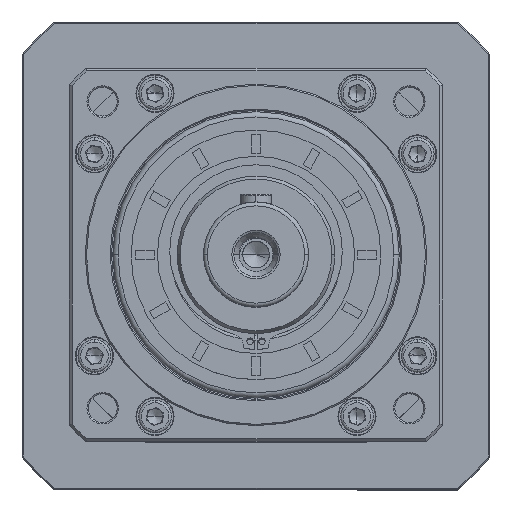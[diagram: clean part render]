
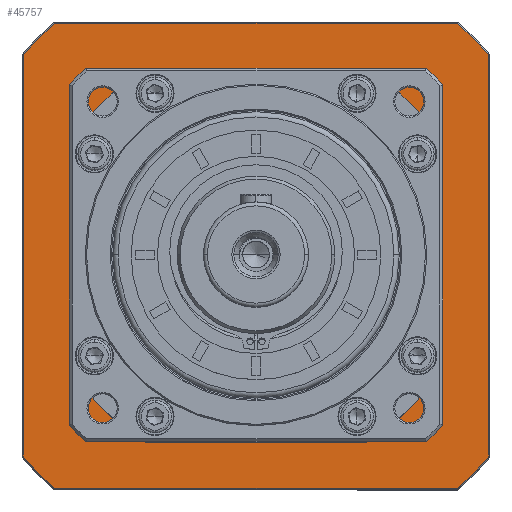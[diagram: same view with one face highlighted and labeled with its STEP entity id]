
A CAD part, top view. The second image highlights one B-rep face of the part: STEP entity #45757.
In plain terms, the highlighted planar face has unit normal (0, 0, 1).
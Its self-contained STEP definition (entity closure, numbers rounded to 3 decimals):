
#1697 = CARTESIAN_POINT ( 'NONE',  ( 213.823, 170.238, 9.55 ) ) ;
#2037 = ORIENTED_EDGE ( 'NONE', *, *, #29896, .F. ) ;
#2527 = DIRECTION ( 'NONE',  ( -1., 0., 0. ) ) ;
#3646 = VERTEX_POINT ( 'NONE', #123392 ) ;
#5667 = EDGE_CURVE ( 'NONE', #73450, #32689, #24613, .T. ) ;
#8377 = AXIS2_PLACEMENT_3D ( 'NONE', #28095, #79909, #57982 ) ;
#9794 = CARTESIAN_POINT ( 'NONE',  ( 143.323, 39.86, 9.55 ) ) ;
#10987 = CARTESIAN_POINT ( 'NONE',  ( 101.446, 198.86, 9.55 ) ) ;
#11512 = EDGE_CURVE ( 'NONE', #77618, #94057, #47155, .T. ) ;
#11648 = CARTESIAN_POINT ( 'NONE',  ( 219.853, 216.86, 9.55 ) ) ;
#12142 = LINE ( 'NONE', #128943, #103341 ) ;
#12153 = DIRECTION ( 'NONE',  ( 0., 0., 1. ) ) ;
#13436 = CARTESIAN_POINT ( 'NONE',  ( 231.823, 128.36, 9.55 ) ) ;
#14104 = VERTEX_POINT ( 'NONE', #103658 ) ;
#14630 = VERTEX_POINT ( 'NONE', #11648 ) ;
#15737 = DIRECTION ( 'NONE',  ( 1., 0., 0. ) ) ;
#15923 = CARTESIAN_POINT ( 'NONE',  ( 54.823, 128.36, 9.55 ) ) ;
#16803 = CARTESIAN_POINT ( 'NONE',  ( 214.323, 57.86, 9.55 ) ) ;
#16877 = DIRECTION ( 'NONE',  ( 0., 0., -1. ) ) ;
#17033 = VECTOR ( 'NONE', #40870, 1000. ) ;
#17262 = VECTOR ( 'NONE', #63923, 1000. ) ;
#18165 = DIRECTION ( 'NONE',  ( -1., 0., 0. ) ) ;
#18299 = DIRECTION ( 'NONE',  ( 0., -1., 0. ) ) ;
#19082 = FACE_OUTER_BOUND ( 'NONE', #91045, .T. ) ;
#19124 = EDGE_CURVE ( 'NONE', #124440, #3646, #129032, .T. ) ;
#20171 = AXIS2_PLACEMENT_3D ( 'NONE', #117113, #117526, #88419 ) ;
#21207 = DIRECTION ( 'NONE',  ( 0., -1., 0. ) ) ;
#22565 = ORIENTED_EDGE ( 'NONE', *, *, #77963, .F. ) ;
#23108 = LINE ( 'NONE', #9794, #90558 ) ;
#23270 = LINE ( 'NONE', #80805, #17033 ) ;
#24613 = CIRCLE ( 'NONE', #89879, 82. ) ;
#26063 = VERTEX_POINT ( 'NONE', #122967 ) ;
#26860 = ORIENTED_EDGE ( 'NONE', *, *, #27283, .F. ) ;
#27283 = EDGE_CURVE ( 'NONE', #62094, #124440, #66825, .T. ) ;
#27302 = CARTESIAN_POINT ( 'NONE',  ( 213.823, 86.483, 9.55 ) ) ;
#28095 = CARTESIAN_POINT ( 'NONE',  ( 143.323, 128.36, 9.55 ) ) ;
#29896 = EDGE_CURVE ( 'NONE', #90451, #114302, #46878, .T. ) ;
#32689 = VERTEX_POINT ( 'NONE', #112103 ) ;
#35442 = EDGE_CURVE ( 'NONE', #94057, #46491, #36523, .T. ) ;
#36523 = CIRCLE ( 'NONE', #112268, 117. ) ;
#40307 = DIRECTION ( 'NONE',  ( 1., 0., 0. ) ) ;
#40870 = DIRECTION ( 'NONE',  ( 0., 1., 0. ) ) ;
#41209 = CARTESIAN_POINT ( 'NONE',  ( 54.823, 204.89, 9.55 ) ) ;
#41408 = EDGE_CURVE ( 'NONE', #3646, #77053, #84181, .T. ) ;
#42323 = DIRECTION ( 'NONE',  ( 0., 0., -1. ) ) ;
#44286 = ORIENTED_EDGE ( 'NONE', *, *, #56719, .F. ) ;
#44305 = CARTESIAN_POINT ( 'NONE',  ( 143.323, 128.36, 9.55 ) ) ;
#44793 = VECTOR ( 'NONE', #15737, 1000. ) ;
#44908 = CARTESIAN_POINT ( 'NONE',  ( 54.823, 51.831, 9.55 ) ) ;
#45757 = ADVANCED_FACE ( 'NONE', ( #19082, #129205 ), #108702, .F. ) ;
#46491 = VERTEX_POINT ( 'NONE', #68091 ) ;
#46878 = LINE ( 'NONE', #15923, #70422 ) ;
#47155 = LINE ( 'NONE', #13436, #17262 ) ;
#47747 = DIRECTION ( 'NONE',  ( 0., 0., 1. ) ) ;
#48783 = VECTOR ( 'NONE', #80347, 1000. ) ;
#50404 = AXIS2_PLACEMENT_3D ( 'NONE', #77176, #47747, #18299 ) ;
#50872 = CARTESIAN_POINT ( 'NONE',  ( 72.823, 57.36, 9.55 ) ) ;
#51534 = ORIENTED_EDGE ( 'NONE', *, *, #127433, .F. ) ;
#52399 = DIRECTION ( 'NONE',  ( 0., 1., 0. ) ) ;
#53597 = LINE ( 'NONE', #16803, #118135 ) ;
#56719 = EDGE_CURVE ( 'NONE', #26063, #106998, #77147, .T. ) ;
#57982 = DIRECTION ( 'NONE',  ( -1., 0., 0. ) ) ;
#58605 = DIRECTION ( 'NONE',  ( -1., 0., 0. ) ) ;
#58607 = DIRECTION ( 'NONE',  ( -1., 0., 0. ) ) ;
#62094 = VERTEX_POINT ( 'NONE', #10987 ) ;
#62740 = DIRECTION ( 'NONE',  ( 0., 0., -1. ) ) ;
#63259 = ORIENTED_EDGE ( 'NONE', *, *, #101018, .F. ) ;
#63694 = EDGE_CURVE ( 'NONE', #106998, #73450, #23270, .T. ) ;
#63923 = DIRECTION ( 'NONE',  ( 0., -1., 0. ) ) ;
#66825 = CIRCLE ( 'NONE', #117849, 82. ) ;
#67727 = DIRECTION ( 'NONE',  ( 0., 1., 0. ) ) ;
#68091 = CARTESIAN_POINT ( 'NONE',  ( 219.853, 39.86, 9.55 ) ) ;
#70422 = VECTOR ( 'NONE', #67727, 1000. ) ;
#72916 = ORIENTED_EDGE ( 'NONE', *, *, #115196, .F. ) ;
#73450 = VERTEX_POINT ( 'NONE', #1697 ) ;
#74337 = EDGE_LOOP ( 'NONE', ( #84250, #90068, #44286, #72916, #127508, #88169, #26860, #113670 ) ) ;
#74689 = LINE ( 'NONE', #117688, #44793 ) ;
#77053 = VERTEX_POINT ( 'NONE', #96450 ) ;
#77147 = CIRCLE ( 'NONE', #20171, 82. ) ;
#77176 = CARTESIAN_POINT ( 'NONE',  ( 143.323, 128.36, 9.55 ) ) ;
#77618 = VERTEX_POINT ( 'NONE', #86150 ) ;
#77963 = EDGE_CURVE ( 'NONE', #114302, #14104, #91572, .T. ) ;
#79787 = AXIS2_PLACEMENT_3D ( 'NONE', #44305, #123506, #84730 ) ;
#79909 = DIRECTION ( 'NONE',  ( 0., 0., -1. ) ) ;
#80347 = DIRECTION ( 'NONE',  ( 0., -1., 0. ) ) ;
#80571 = CARTESIAN_POINT ( 'NONE',  ( 143.323, 128.36, 9.55 ) ) ;
#80805 = CARTESIAN_POINT ( 'NONE',  ( 213.823, 57.36, 9.55 ) ) ;
#82235 = ORIENTED_EDGE ( 'NONE', *, *, #103382, .F. ) ;
#84181 = CIRCLE ( 'NONE', #50404, 82. ) ;
#84250 = ORIENTED_EDGE ( 'NONE', *, *, #5667, .F. ) ;
#84730 = DIRECTION ( 'NONE',  ( -1., 0., 0. ) ) ;
#85624 = ORIENTED_EDGE ( 'NONE', *, *, #35442, .F. ) ;
#86150 = CARTESIAN_POINT ( 'NONE',  ( 231.823, 204.89, 9.55 ) ) ;
#86332 = ORIENTED_EDGE ( 'NONE', *, *, #105984, .F. ) ;
#88169 = ORIENTED_EDGE ( 'NONE', *, *, #19124, .F. ) ;
#88419 = DIRECTION ( 'NONE',  ( 1., 0., 0. ) ) ;
#89879 = AXIS2_PLACEMENT_3D ( 'NONE', #80571, #100813, #21207 ) ;
#90068 = ORIENTED_EDGE ( 'NONE', *, *, #63694, .F. ) ;
#90451 = VERTEX_POINT ( 'NONE', #44908 ) ;
#90558 = VECTOR ( 'NONE', #58607, 1000. ) ;
#91045 = EDGE_LOOP ( 'NONE', ( #86332, #85624, #127635, #51534, #63259, #22565, #2037, #82235 ) ) ;
#91572 = CIRCLE ( 'NONE', #79787, 117. ) ;
#94057 = VERTEX_POINT ( 'NONE', #97732 ) ;
#96450 = CARTESIAN_POINT ( 'NONE',  ( 101.446, 57.86, 9.55 ) ) ;
#97264 = CARTESIAN_POINT ( 'NONE',  ( 143.323, 128.36, 9.55 ) ) ;
#97732 = CARTESIAN_POINT ( 'NONE',  ( 231.823, 51.831, 9.55 ) ) ;
#98498 = DIRECTION ( 'NONE',  ( 1., 0., 0. ) ) ;
#100471 = CARTESIAN_POINT ( 'NONE',  ( 143.323, 128.36, 9.55 ) ) ;
#100711 = AXIS2_PLACEMENT_3D ( 'NONE', #97264, #16877, #18165 ) ;
#100813 = DIRECTION ( 'NONE',  ( 0., 0., 1. ) ) ;
#101018 = EDGE_CURVE ( 'NONE', #14104, #14630, #74689, .T. ) ;
#102521 = CARTESIAN_POINT ( 'NONE',  ( 72.823, 170.238, 9.55 ) ) ;
#102532 = CARTESIAN_POINT ( 'NONE',  ( 143.323, 128.36, 9.55 ) ) ;
#103341 = VECTOR ( 'NONE', #58605, 1000. ) ;
#103349 = CIRCLE ( 'NONE', #119362, 117. ) ;
#103382 = EDGE_CURVE ( 'NONE', #117233, #90451, #103349, .T. ) ;
#103658 = CARTESIAN_POINT ( 'NONE',  ( 66.794, 216.86, 9.55 ) ) ;
#105984 = EDGE_CURVE ( 'NONE', #46491, #117233, #23108, .T. ) ;
#106998 = VERTEX_POINT ( 'NONE', #27302 ) ;
#108702 = PLANE ( 'NONE',  #100711 ) ;
#112103 = CARTESIAN_POINT ( 'NONE',  ( 185.201, 198.86, 9.55 ) ) ;
#112268 = AXIS2_PLACEMENT_3D ( 'NONE', #123061, #62740, #2527 ) ;
#112327 = CIRCLE ( 'NONE', #8377, 117. ) ;
#113670 = ORIENTED_EDGE ( 'NONE', *, *, #129785, .F. ) ;
#114302 = VERTEX_POINT ( 'NONE', #41209 ) ;
#115196 = EDGE_CURVE ( 'NONE', #77053, #26063, #53597, .T. ) ;
#117113 = CARTESIAN_POINT ( 'NONE',  ( 143.323, 128.36, 9.55 ) ) ;
#117233 = VERTEX_POINT ( 'NONE', #123505 ) ;
#117526 = DIRECTION ( 'NONE',  ( 0., 0., 1. ) ) ;
#117688 = CARTESIAN_POINT ( 'NONE',  ( 143.323, 216.86, 9.55 ) ) ;
#117849 = AXIS2_PLACEMENT_3D ( 'NONE', #100471, #12153, #40307 ) ;
#118135 = VECTOR ( 'NONE', #98498, 1000. ) ;
#119362 = AXIS2_PLACEMENT_3D ( 'NONE', #102532, #42323, #52399 ) ;
#122967 = CARTESIAN_POINT ( 'NONE',  ( 185.201, 57.86, 9.55 ) ) ;
#123061 = CARTESIAN_POINT ( 'NONE',  ( 143.323, 128.36, 9.55 ) ) ;
#123392 = CARTESIAN_POINT ( 'NONE',  ( 72.823, 86.483, 9.55 ) ) ;
#123505 = CARTESIAN_POINT ( 'NONE',  ( 66.794, 39.86, 9.55 ) ) ;
#123506 = DIRECTION ( 'NONE',  ( 0., 0., -1. ) ) ;
#124440 = VERTEX_POINT ( 'NONE', #102521 ) ;
#127433 = EDGE_CURVE ( 'NONE', #14630, #77618, #112327, .T. ) ;
#127508 = ORIENTED_EDGE ( 'NONE', *, *, #41408, .F. ) ;
#127635 = ORIENTED_EDGE ( 'NONE', *, *, #11512, .F. ) ;
#128943 = CARTESIAN_POINT ( 'NONE',  ( 214.323, 198.86, 9.55 ) ) ;
#129032 = LINE ( 'NONE', #50872, #48783 ) ;
#129205 = FACE_BOUND ( 'NONE', #74337, .T. ) ;
#129785 = EDGE_CURVE ( 'NONE', #32689, #62094, #12142, .T. ) ;
